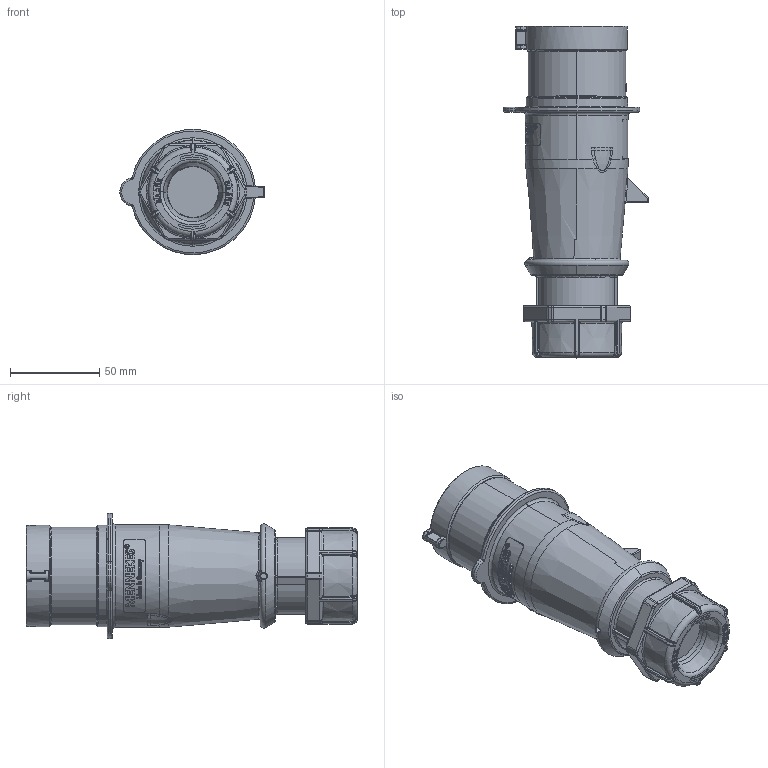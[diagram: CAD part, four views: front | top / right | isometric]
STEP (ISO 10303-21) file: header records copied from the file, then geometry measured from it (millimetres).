
FILE_DESCRIPTION((''),'2;1');
FILE_NAME('1117945_ASM_SW0001','2020-03-26T13:45:12',('Petermann'),('MENNEKES'),'CREO PARAMETRIC BY PTC INC, 2019080','CREO PARAMETRIC BY PTC INC, 2019080','');
FILE_SCHEMA(('AUTOMOTIVE_DESIGN { 1 0 10303 214 1 1 1 1 }'));
Products named in the file (1): 1117945_ASM_SW0001
Bounding box: 81 x 186.3 x 70.36 mm (x, y, z)
Volume: 331963.2 mm3; surface area: 54530.1 mm2
Topology: 1 solids, 1 shells, 1554 faces, 4125 edges, 2628 vertices
Faces by surface type: plane 905, cylinder 194, bspline 170, torus 124, extrusion 106, cone 45, sphere 10
Entity records: 74265 total; most frequent: CARTESIAN_POINT 19422, ORIENTED_EDGE 8248, DIRECTION 6552, EDGE_CURVE 4124, FILL_AREA_STYLE_COLOUR 2929, FILL_AREA_STYLE 2929, SURFACE_STYLE_FILL_AREA 2929, SURFACE_SIDE_STYLE 2929
